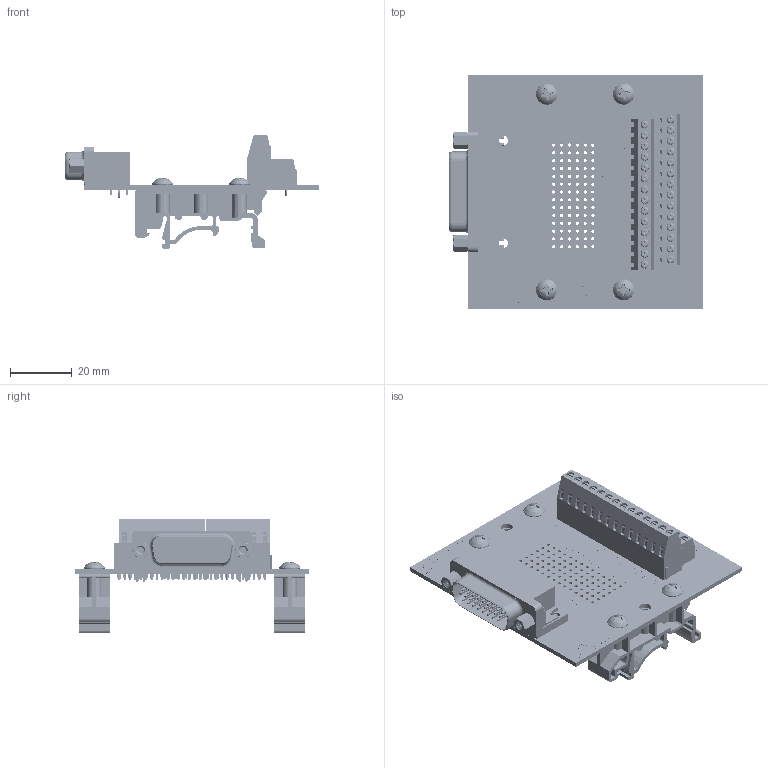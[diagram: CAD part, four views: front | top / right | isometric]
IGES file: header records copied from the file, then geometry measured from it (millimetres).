
Start section: SolidWorks IGES file using analytic representation for surfaces
Global section: file name: C:\Users\Jonny\Documents\Winford Engineering Jobs\BRKDD26HD\BRKDD26HDM\brkdd26hdm-r-din_rev_b.igs; native system: SolidWorks 2017; preprocessor: SolidWorks 2017; author: Jonny; date: 180424.232719; units: inch
Bounding box: 82.24 x 76.31 x 36.77 mm (x, y, z)
Surface area: 43051 mm2 (no closed solid volume)
Topology: 0 solids, 0 shells, 9128 faces, 64913 edges, 64913 vertices
Faces by surface type: bspline 6510, revolution 2618
